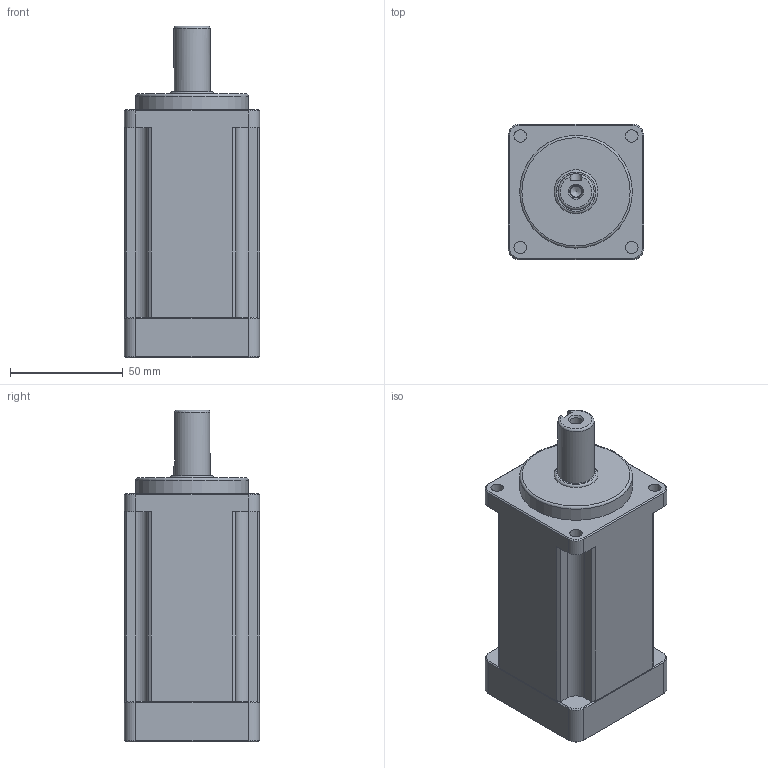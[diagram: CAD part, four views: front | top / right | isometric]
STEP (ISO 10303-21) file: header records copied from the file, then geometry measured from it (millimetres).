
FILE_DESCRIPTION((''),'2;1');
FILE_NAME('D:\유성\유성\도면\3D\2. 홈페이지용 3D 도면 (ipt)\외부도\SPI060 2단\SPI(H)060 SERIES (2 STAGE-KA TYPE)_Shrinkwrap_1.stp','2014-05-08T13:17:06',('nagyu'),(''),'Autodesk Inventor 2013','Autodesk Inventor 2013','');
FILE_SCHEMA(('AUTOMOTIVE_DESIGN { 1 0 10303 214 1 1 1 1 }'));
Length unit declared in the file: millimetre
Products named in the file (1): SPI(H)060 SERIES (2 STAGE-KA TYPE)_Shrinkwrap_1
Bounding box: 60 x 60 x 147 mm (x, y, z)
Volume: 348808.2 mm3; surface area: 45565.2 mm2
Topology: 1 solids, 5 shells, 196 faces, 470 edges, 297 vertices
Faces by surface type: plane 102, cylinder 56, cone 27, torus 11
Full cylindrical faces by diameter (mm): 4 x4, 4.134 x4, 4.5 x4, 5 x1, 5.5 x5, 7 x4, 7.5 x4, 8 x1, 14 x1, 16 x1, 17 x1, 47 x1, 50 x2
Entity records: 5320 total; most frequent: CARTESIAN_POINT 979, DIRECTION 909, ORIENTED_EDGE 780, EDGE_CURVE 390, AXIS2_PLACEMENT_3D 351, EDGE_LOOP 287, VERTEX_POINT 275, VECTOR 207
